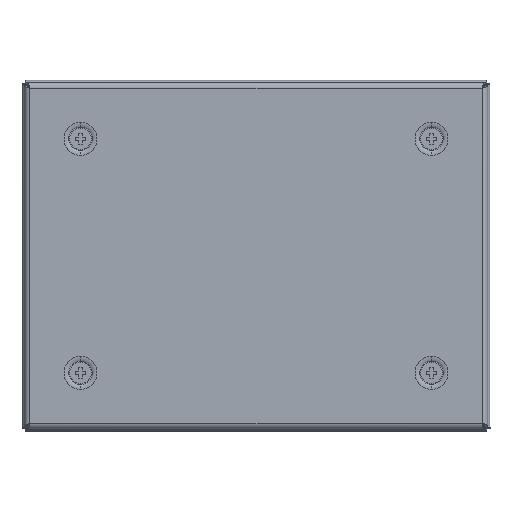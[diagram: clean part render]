
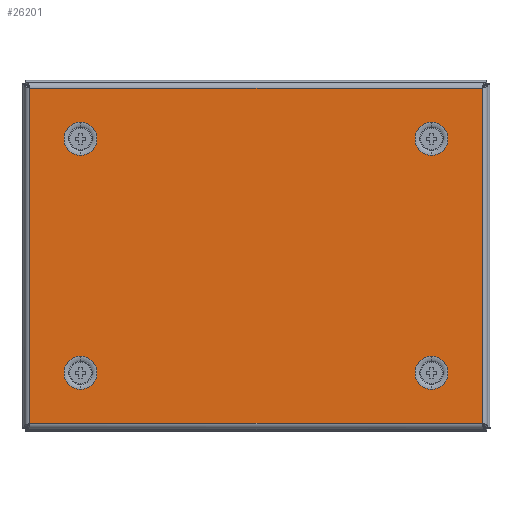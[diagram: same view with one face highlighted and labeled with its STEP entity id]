
A CAD part, top view. The second image highlights one B-rep face of the part: STEP entity #26201.
In plain terms, the highlighted planar face has unit normal (0, 0, 1).
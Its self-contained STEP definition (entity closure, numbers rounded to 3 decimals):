
#20 = VERTEX_POINT ( 'NONE', #18864 ) ;
#320 = EDGE_CURVE ( 'NONE', #22555, #19490, #16135, .T. ) ;
#375 = AXIS2_PLACEMENT_3D ( 'NONE', #14505, #23119, #3809 ) ;
#862 = EDGE_CURVE ( 'NONE', #9659, #1399, #3133, .T. ) ;
#962 = EDGE_CURVE ( 'NONE', #22708, #21195, #25396, .T. ) ;
#1040 = CARTESIAN_POINT ( 'NONE',  ( -75., -57.05, 0. ) ) ;
#1399 = VERTEX_POINT ( 'NONE', #6331 ) ;
#1400 = CARTESIAN_POINT ( 'NONE',  ( -97.659, -71.6, 0. ) ) ;
#1424 = DIRECTION ( 'NONE',  ( 0., 0., 1. ) ) ;
#1509 = VERTEX_POINT ( 'NONE', #16755 ) ;
#1567 = CARTESIAN_POINT ( 'NONE',  ( 75., -50., 0. ) ) ;
#1673 = ORIENTED_EDGE ( 'NONE', *, *, #10283, .F. ) ;
#2161 = DIRECTION ( 'NONE',  ( 1., 0., 0. ) ) ;
#2265 = DIRECTION ( 'NONE',  ( 0., -1., 0. ) ) ;
#2584 = DIRECTION ( 'NONE',  ( 0., -1., 0. ) ) ;
#2595 = ORIENTED_EDGE ( 'NONE', *, *, #16932, .F. ) ;
#3133 = LINE ( 'NONE', #13398, #21100 ) ;
#3809 = DIRECTION ( 'NONE',  ( 0., -1., 0. ) ) ;
#4121 = AXIS2_PLACEMENT_3D ( 'NONE', #20790, #16154, #13906 ) ;
#4706 = DIRECTION ( 'NONE',  ( 0., 0., 1. ) ) ;
#4773 = ORIENTED_EDGE ( 'NONE', *, *, #19083, .F. ) ;
#5226 = DIRECTION ( 'NONE',  ( -1., 0., 0. ) ) ;
#5464 = ORIENTED_EDGE ( 'NONE', *, *, #9360, .T. ) ;
#6064 = VERTEX_POINT ( 'NONE', #8775 ) ;
#6155 = VERTEX_POINT ( 'NONE', #8920 ) ;
#6331 = CARTESIAN_POINT ( 'NONE',  ( -96.6, 71.6, 0. ) ) ;
#6581 = VERTEX_POINT ( 'NONE', #9844 ) ;
#6806 = DIRECTION ( 'NONE',  ( 0., 0., 1. ) ) ;
#8033 = CIRCLE ( 'NONE', #19271, 7.05 ) ;
#8172 = ORIENTED_EDGE ( 'NONE', *, *, #17810, .F. ) ;
#8775 = CARTESIAN_POINT ( 'NONE',  ( -75., 57.05, 0. ) ) ;
#8920 = CARTESIAN_POINT ( 'NONE',  ( 75., 42.95, 0. ) ) ;
#9177 = ORIENTED_EDGE ( 'NONE', *, *, #12413, .F. ) ;
#9360 = EDGE_CURVE ( 'NONE', #21195, #9659, #21957, .T. ) ;
#9495 = CIRCLE ( 'NONE', #4121, 7.05 ) ;
#9659 = VERTEX_POINT ( 'NONE', #25476 ) ;
#9844 = CARTESIAN_POINT ( 'NONE',  ( 75., -57.05, 0. ) ) ;
#10143 = AXIS2_PLACEMENT_3D ( 'NONE', #15668, #6806, #2161 ) ;
#10283 = EDGE_CURVE ( 'NONE', #6581, #1509, #27375, .T. ) ;
#10285 = CIRCLE ( 'NONE', #375, 7.05 ) ;
#10451 = CARTESIAN_POINT ( 'NONE',  ( -96.6, -71.6, 0. ) ) ;
#10907 = CARTESIAN_POINT ( 'NONE',  ( -75., -50., 0. ) ) ;
#11919 = ORIENTED_EDGE ( 'NONE', *, *, #22608, .T. ) ;
#12060 = AXIS2_PLACEMENT_3D ( 'NONE', #25448, #27405, #16531 ) ;
#12137 = VECTOR ( 'NONE', #22611, 1000. ) ;
#12153 = LINE ( 'NONE', #15958, #12137 ) ;
#12390 = DIRECTION ( 'NONE',  ( 1., 0., 0. ) ) ;
#12413 = EDGE_CURVE ( 'NONE', #1509, #6581, #25673, .T. ) ;
#12742 = DIRECTION ( 'NONE',  ( 0., -1., 0. ) ) ;
#13398 = CARTESIAN_POINT ( 'NONE',  ( 97.659, 71.6, 0. ) ) ;
#13484 = ORIENTED_EDGE ( 'NONE', *, *, #862, .T. ) ;
#13493 = DIRECTION ( 'NONE',  ( 0., 1., 0. ) ) ;
#13496 = AXIS2_PLACEMENT_3D ( 'NONE', #1567, #1424, #23286 ) ;
#13906 = DIRECTION ( 'NONE',  ( 0., -1., 0. ) ) ;
#14421 = CARTESIAN_POINT ( 'NONE',  ( 96.6, -71.6, 0. ) ) ;
#14505 = CARTESIAN_POINT ( 'NONE',  ( 75., 50., 0. ) ) ;
#14730 = CARTESIAN_POINT ( 'NONE',  ( -75., -42.95, 0. ) ) ;
#15118 = FACE_BOUND ( 'NONE', #18871, .T. ) ;
#15120 = CARTESIAN_POINT ( 'NONE',  ( -75., 50., 0. ) ) ;
#15668 = CARTESIAN_POINT ( 'NONE',  ( 0., 0., 0. ) ) ;
#15889 = EDGE_CURVE ( 'NONE', #6064, #19353, #8033, .T. ) ;
#15958 = CARTESIAN_POINT ( 'NONE',  ( -96.6, 72.659, 0. ) ) ;
#16135 = CIRCLE ( 'NONE', #17033, 7.05 ) ;
#16154 = DIRECTION ( 'NONE',  ( 0., 0., 1. ) ) ;
#16531 = DIRECTION ( 'NONE',  ( 0., -1., 0. ) ) ;
#16755 = CARTESIAN_POINT ( 'NONE',  ( 75., -42.95, 0. ) ) ;
#16827 = EDGE_LOOP ( 'NONE', ( #4773, #16890 ) ) ;
#16890 = ORIENTED_EDGE ( 'NONE', *, *, #15889, .F. ) ;
#16932 = EDGE_CURVE ( 'NONE', #6155, #20, #27382, .T. ) ;
#17033 = AXIS2_PLACEMENT_3D ( 'NONE', #10907, #23755, #12742 ) ;
#17054 = VECTOR ( 'NONE', #12390, 1000. ) ;
#17148 = ORIENTED_EDGE ( 'NONE', *, *, #21621, .F. ) ;
#17230 = CARTESIAN_POINT ( 'NONE',  ( 75., -50., 0. ) ) ;
#17245 = ORIENTED_EDGE ( 'NONE', *, *, #320, .F. ) ;
#17358 = PLANE ( 'NONE',  #10143 ) ;
#17527 = EDGE_LOOP ( 'NONE', ( #11919, #25527, #5464, #13484 ) ) ;
#17579 = CARTESIAN_POINT ( 'NONE',  ( 96.6, -72.659, 0. ) ) ;
#17767 = FACE_OUTER_BOUND ( 'NONE', #17527, .T. ) ;
#17810 = EDGE_CURVE ( 'NONE', #20, #6155, #10285, .T. ) ;
#18361 = AXIS2_PLACEMENT_3D ( 'NONE', #17230, #4706, #2584 ) ;
#18864 = CARTESIAN_POINT ( 'NONE',  ( 75., 57.05, 0. ) ) ;
#18871 = EDGE_LOOP ( 'NONE', ( #2595, #8172 ) ) ;
#19083 = EDGE_CURVE ( 'NONE', #19353, #6064, #9495, .T. ) ;
#19271 = AXIS2_PLACEMENT_3D ( 'NONE', #15120, #19605, #21874 ) ;
#19353 = VERTEX_POINT ( 'NONE', #24189 ) ;
#19490 = VERTEX_POINT ( 'NONE', #1040 ) ;
#19605 = DIRECTION ( 'NONE',  ( 0., 0., 1. ) ) ;
#19992 = CARTESIAN_POINT ( 'NONE',  ( -75., -50., 0. ) ) ;
#20327 = EDGE_LOOP ( 'NONE', ( #17148, #17245 ) ) ;
#20790 = CARTESIAN_POINT ( 'NONE',  ( -75., 50., 0. ) ) ;
#20835 = AXIS2_PLACEMENT_3D ( 'NONE', #19992, #25945, #2265 ) ;
#21047 = VECTOR ( 'NONE', #13493, 1000. ) ;
#21100 = VECTOR ( 'NONE', #5226, 1000. ) ;
#21195 = VERTEX_POINT ( 'NONE', #14421 ) ;
#21284 = CIRCLE ( 'NONE', #20835, 7.05 ) ;
#21605 = FACE_BOUND ( 'NONE', #20327, .T. ) ;
#21621 = EDGE_CURVE ( 'NONE', #19490, #22555, #21284, .T. ) ;
#21874 = DIRECTION ( 'NONE',  ( 0., -1., 0. ) ) ;
#21957 = LINE ( 'NONE', #17579, #21047 ) ;
#22555 = VERTEX_POINT ( 'NONE', #14730 ) ;
#22608 = EDGE_CURVE ( 'NONE', #1399, #22708, #12153, .T. ) ;
#22611 = DIRECTION ( 'NONE',  ( 0., -1., 0. ) ) ;
#22708 = VERTEX_POINT ( 'NONE', #10451 ) ;
#23119 = DIRECTION ( 'NONE',  ( 0., 0., 1. ) ) ;
#23286 = DIRECTION ( 'NONE',  ( 0., -1., 0. ) ) ;
#23755 = DIRECTION ( 'NONE',  ( 0., 0., 1. ) ) ;
#23884 = FACE_BOUND ( 'NONE', #24949, .T. ) ;
#24189 = CARTESIAN_POINT ( 'NONE',  ( -75., 42.95, 0. ) ) ;
#24949 = EDGE_LOOP ( 'NONE', ( #1673, #9177 ) ) ;
#25396 = LINE ( 'NONE', #1400, #17054 ) ;
#25448 = CARTESIAN_POINT ( 'NONE',  ( 75., 50., 0. ) ) ;
#25476 = CARTESIAN_POINT ( 'NONE',  ( 96.6, 71.6, 0. ) ) ;
#25527 = ORIENTED_EDGE ( 'NONE', *, *, #962, .T. ) ;
#25673 = CIRCLE ( 'NONE', #13496, 7.05 ) ;
#25945 = DIRECTION ( 'NONE',  ( 0., 0., 1. ) ) ;
#26201 = ADVANCED_FACE ( 'NONE', ( #23884, #15118, #21605, #26396, #17767 ), #17358, .T. ) ;
#26396 = FACE_BOUND ( 'NONE', #16827, .T. ) ;
#27375 = CIRCLE ( 'NONE', #18361, 7.05 ) ;
#27382 = CIRCLE ( 'NONE', #12060, 7.05 ) ;
#27405 = DIRECTION ( 'NONE',  ( 0., 0., 1. ) ) ;
